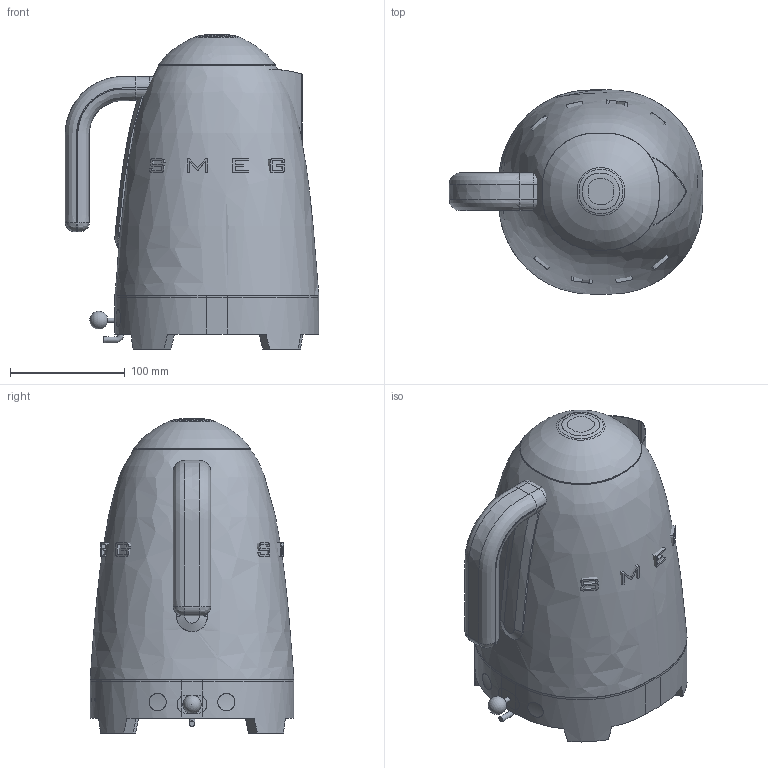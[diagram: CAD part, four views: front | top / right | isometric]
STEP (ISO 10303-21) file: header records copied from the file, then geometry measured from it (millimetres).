
FILE_DESCRIPTION(/* description */ (''),/* implementation_level */ '2;1');
FILE_NAME(/* name */ 'KLF02.stp',/* time_stamp */ '2017-11-28T14:14:11+01:00',/* author */ (''),/* organization */ (''),/* preprocessor_version */ 'ST-DEVELOPER v16',/* originating_system */ 'SIEMENS PLM Software NX 11.0',/* authorisation */ '');
FILE_SCHEMA (('AUTOMOTIVE_DESIGN { 1 0 10303 214 3 1 1 1 }'));
Length unit declared in the file: millimetre
Products named in the file (1): gras49FCBBA74k5i
Bounding box: 221.31 x 178 x 274 mm (x, y, z)
Volume: 5202052.7 mm3; surface area: 449593.8 mm2
Topology: 23 solids, 23 shells, 339 faces, 850 edges, 567 vertices
Faces by surface type: plane 208, cylinder 76, bspline 28, extrusion 26, sphere 1
Full cylindrical faces by diameter (mm): 3 x7, 4 x1, 15 x4
Entity records: 15572 total; most frequent: CARTESIAN_POINT 8133, ORIENTED_EDGE 1632, DIRECTION 1201, EDGE_CURVE 816, VERTEX_POINT 552, AXIS2_PLACEMENT_3D 424, EDGE_LOOP 370, B_SPLINE_CURVE_WITH_KNOTS 354
